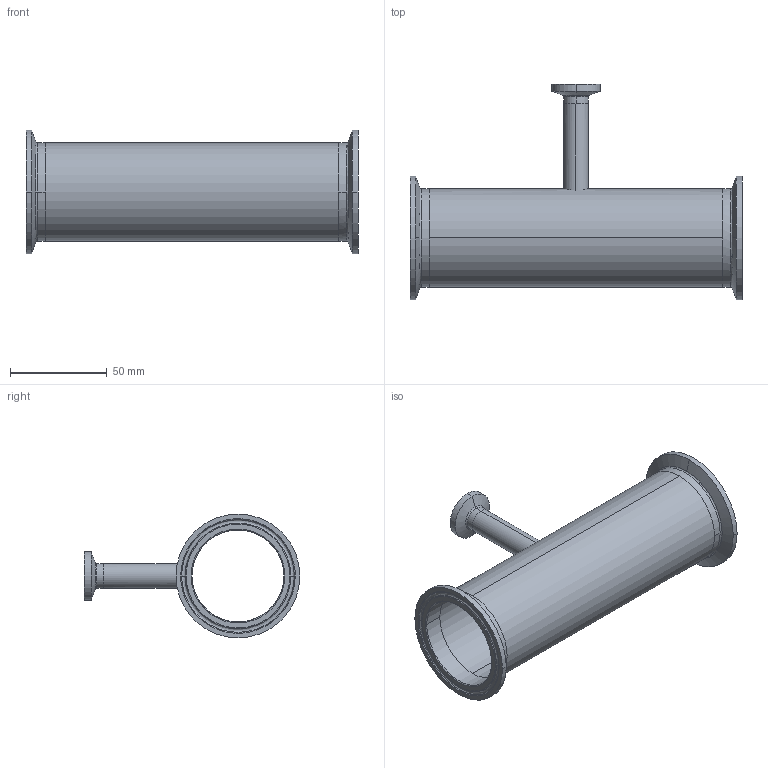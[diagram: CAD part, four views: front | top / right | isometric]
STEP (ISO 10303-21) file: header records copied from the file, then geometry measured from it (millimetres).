
FILE_DESCRIPTION (( 'STEP AP214' ), '1' );
FILE_NAME ('TEG7R6L2.0x.5-...STEP', '2016-05-24T06:15:17', ( 'eran' ), ( '' ), 'SwSTEP 2.0', 'SolidWorks 2016', '' );
FILE_SCHEMA (( 'AUTOMOTIVE_DESIGN' ));
Length unit declared in the file: millimetre
Products named in the file (1): TEG7R6L2.0x.5-..
Bounding box: 171.4 x 111.35 x 63.91 mm (x, y, z)
Volume: 56964 mm3; surface area: 63614.2 mm2
Topology: 4 solids, 4 shells, 84 faces, 198 edges, 126 vertices
Faces by surface type: cylinder 28, bspline 28, cone 16, plane 12
Entity records: 4099 total; most frequent: CARTESIAN_POINT 2113, DIRECTION 426, ORIENTED_EDGE 396, EDGE_CURVE 198, AXIS2_PLACEMENT_3D 191, CIRCLE 134, VERTEX_POINT 126, EDGE_LOOP 98
